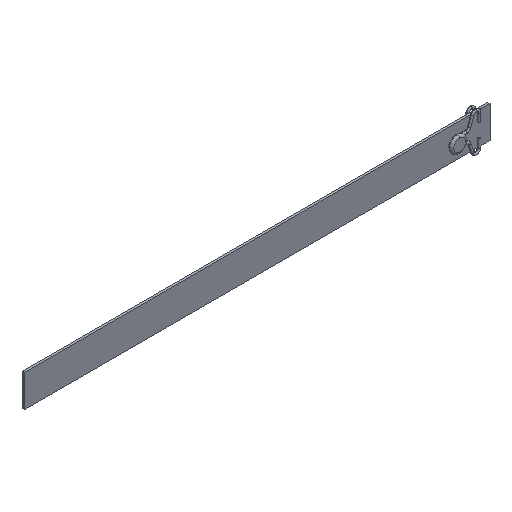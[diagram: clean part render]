
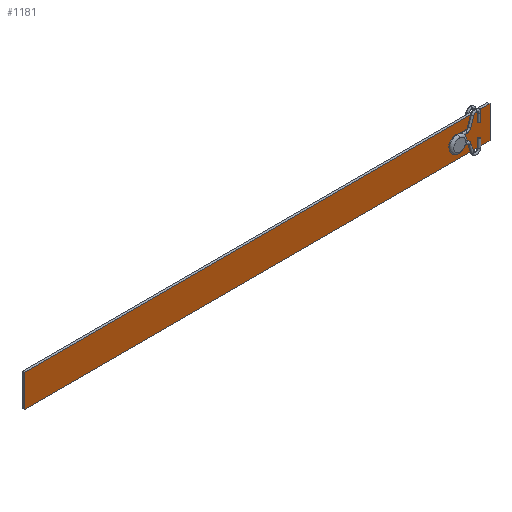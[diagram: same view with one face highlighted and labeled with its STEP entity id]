
A CAD part, isometric view. The second image highlights one B-rep face of the part: STEP entity #1181.
In plain terms, the highlighted planar face has unit normal (0, -1, 0).
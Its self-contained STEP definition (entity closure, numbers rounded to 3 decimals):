
#13 = LINE ( 'NONE', #1344, #1872 ) ;
#16 = CIRCLE ( 'NONE', #2120, 1.95 ) ;
#114 = EDGE_LOOP ( 'NONE', ( #1948, #2002, #1983, #1815 ) ) ;
#155 = EDGE_LOOP ( 'NONE', ( #1645, #1775 ) ) ;
#157 = EDGE_CURVE ( 'NONE', #468, #1870, #1728, .T. ) ;
#158 = CARTESIAN_POINT ( 'NONE',  ( 0., -0.5, 6.9 ) ) ;
#161 = EDGE_CURVE ( 'NONE', #244, #1896, #2122, .T. ) ;
#164 = DIRECTION ( 'NONE',  ( 0., 0., 1. ) ) ;
#226 = DIRECTION ( 'NONE',  ( 0., 0., 1. ) ) ;
#244 = VERTEX_POINT ( 'NONE', #374 ) ;
#362 = CARTESIAN_POINT ( 'NONE',  ( -15., -0.5, 0. ) ) ;
#374 = CARTESIAN_POINT ( 'NONE',  ( 0., -0.5, -6.9 ) ) ;
#468 = VERTEX_POINT ( 'NONE', #920 ) ;
#478 = FACE_OUTER_BOUND ( 'NONE', #114, .T. ) ;
#554 = DIRECTION ( 'NONE',  ( 0., 1., 0. ) ) ;
#567 = EDGE_CURVE ( 'NONE', #1787, #959, #16, .T. ) ;
#666 = DIRECTION ( 'NONE',  ( -1., 0., 0. ) ) ;
#770 = CARTESIAN_POINT ( 'NONE',  ( -15., -0.5, -1.95 ) ) ;
#867 = AXIS2_PLACEMENT_3D ( 'NONE', #1513, #1320, #1286 ) ;
#882 = LINE ( 'NONE', #1387, #1292 ) ;
#915 = FACE_BOUND ( 'NONE', #155, .T. ) ;
#920 = CARTESIAN_POINT ( 'NONE',  ( -200., -0.5, 6.9 ) ) ;
#959 = VERTEX_POINT ( 'NONE', #770 ) ;
#1073 = DIRECTION ( 'NONE',  ( 0., 1., 0. ) ) ;
#1173 = DIRECTION ( 'NONE',  ( 1., 0., 0. ) ) ;
#1176 = EDGE_CURVE ( 'NONE', #1870, #244, #13, .T. ) ;
#1181 = ADVANCED_FACE ( 'NONE', ( #915, #478 ), #1332, .F. ) ;
#1256 = CARTESIAN_POINT ( 'NONE',  ( -200., -0.5, -6.9 ) ) ;
#1272 = VECTOR ( 'NONE', #1173, 1000. ) ;
#1286 = DIRECTION ( 'NONE',  ( 0., 0., 1. ) ) ;
#1292 = VECTOR ( 'NONE', #1367, 1000. ) ;
#1303 = EDGE_CURVE ( 'NONE', #959, #1787, #2115, .T. ) ;
#1320 = DIRECTION ( 'NONE',  ( 0., 1., 0. ) ) ;
#1332 = PLANE ( 'NONE',  #867 ) ;
#1339 = DIRECTION ( 'NONE',  ( 0., 0., -1. ) ) ;
#1344 = CARTESIAN_POINT ( 'NONE',  ( 0., -0.5, 6.9 ) ) ;
#1367 = DIRECTION ( 'NONE',  ( 0., 0., 1. ) ) ;
#1387 = CARTESIAN_POINT ( 'NONE',  ( -200., -0.5, -6.9 ) ) ;
#1513 = CARTESIAN_POINT ( 'NONE',  ( 0., -0.5, 0. ) ) ;
#1517 = EDGE_CURVE ( 'NONE', #1896, #468, #882, .T. ) ;
#1548 = CARTESIAN_POINT ( 'NONE',  ( -15., -0.5, 0. ) ) ;
#1552 = AXIS2_PLACEMENT_3D ( 'NONE', #362, #554, #226 ) ;
#1645 = ORIENTED_EDGE ( 'NONE', *, *, #567, .T. ) ;
#1690 = CARTESIAN_POINT ( 'NONE',  ( 0., -0.5, -6.9 ) ) ;
#1728 = LINE ( 'NONE', #158, #1272 ) ;
#1758 = CARTESIAN_POINT ( 'NONE',  ( 0., -0.5, 6.9 ) ) ;
#1775 = ORIENTED_EDGE ( 'NONE', *, *, #1303, .T. ) ;
#1787 = VERTEX_POINT ( 'NONE', #2006 ) ;
#1815 = ORIENTED_EDGE ( 'NONE', *, *, #1517, .F. ) ;
#1870 = VERTEX_POINT ( 'NONE', #1758 ) ;
#1872 = VECTOR ( 'NONE', #1339, 1000. ) ;
#1896 = VERTEX_POINT ( 'NONE', #1256 ) ;
#1948 = ORIENTED_EDGE ( 'NONE', *, *, #161, .F. ) ;
#1983 = ORIENTED_EDGE ( 'NONE', *, *, #157, .F. ) ;
#2002 = ORIENTED_EDGE ( 'NONE', *, *, #1176, .F. ) ;
#2006 = CARTESIAN_POINT ( 'NONE',  ( -15., -0.5, 1.95 ) ) ;
#2115 = CIRCLE ( 'NONE', #1552, 1.95 ) ;
#2120 = AXIS2_PLACEMENT_3D ( 'NONE', #1548, #1073, #164 ) ;
#2122 = LINE ( 'NONE', #1690, #2175 ) ;
#2175 = VECTOR ( 'NONE', #666, 1000. ) ;
